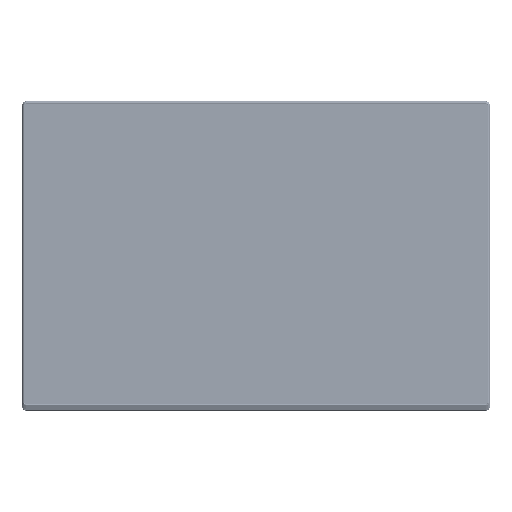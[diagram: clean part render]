
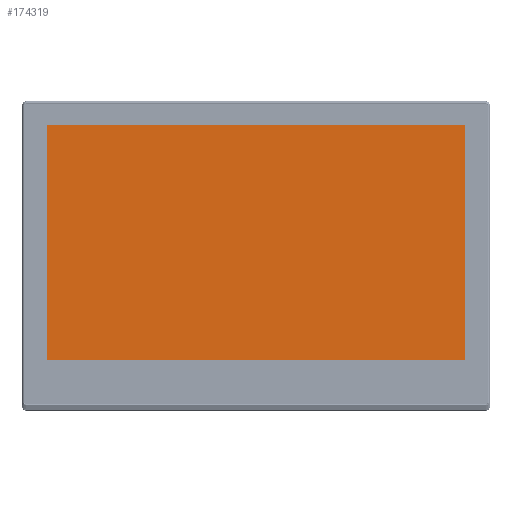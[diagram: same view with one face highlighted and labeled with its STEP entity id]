
A CAD part, top view. The second image highlights one B-rep face of the part: STEP entity #174319.
In plain terms, the highlighted planar face has unit normal (0, 0, 1).
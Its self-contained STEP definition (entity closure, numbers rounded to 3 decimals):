
#30493=DIRECTION('',(-1.,0.,0.));
#30494=VECTOR('',#30493,531.4);
#30495=CARTESIAN_POINT('',(265.7,149.45,-2.6));
#30496=LINE('',#30495,#30494);
#30505=DIRECTION('',(0.,1.,0.));
#30506=VECTOR('',#30505,298.9);
#30507=CARTESIAN_POINT('',(265.7,-149.45,-2.6));
#30508=LINE('',#30507,#30506);
#30513=DIRECTION('',(1.,0.,0.));
#30514=VECTOR('',#30513,531.4);
#30515=CARTESIAN_POINT('',(-265.7,-149.45,-2.6));
#30516=LINE('',#30515,#30514);
#30521=DIRECTION('',(0.,-1.,0.));
#30522=VECTOR('',#30521,298.9);
#30523=CARTESIAN_POINT('',(-265.7,149.45,-2.6));
#30524=LINE('',#30523,#30522);
#93204=CARTESIAN_POINT('',(265.7,149.45,-2.6));
#93205=CARTESIAN_POINT('',(-265.7,149.45,-2.6));
#93206=VERTEX_POINT('',#93204);
#93207=VERTEX_POINT('',#93205);
#93212=CARTESIAN_POINT('',(265.7,-149.45,-2.6));
#93213=VERTEX_POINT('',#93212);
#93214=CARTESIAN_POINT('',(-265.7,-149.45,-2.6));
#93215=VERTEX_POINT('',#93214);
#174305=CARTESIAN_POINT('',(0.,0.,-2.6));
#174306=DIRECTION('',(0.,0.,1.));
#174307=DIRECTION('',(1.,0.,0.));
#174308=AXIS2_PLACEMENT_3D('',#174305,#174306,#174307);
#174309=PLANE('',#174308);
#174310=ORIENTED_EDGE('',*,*,#174288,.F.);
#174312=ORIENTED_EDGE('',*,*,#174311,.F.);
#174314=ORIENTED_EDGE('',*,*,#174313,.F.);
#174316=ORIENTED_EDGE('',*,*,#174315,.F.);
#174317=EDGE_LOOP('',(#174310,#174312,#174314,#174316));
#174318=FACE_OUTER_BOUND('',#174317,.F.);
#174288=EDGE_CURVE('',#93206,#93207,#30496,.T.);
#174311=EDGE_CURVE('',#93213,#93206,#30508,.T.);
#174313=EDGE_CURVE('',#93215,#93213,#30516,.T.);
#174315=EDGE_CURVE('',#93207,#93215,#30524,.T.);
#174319=ADVANCED_FACE('',(#174318),#174309,.T.);
